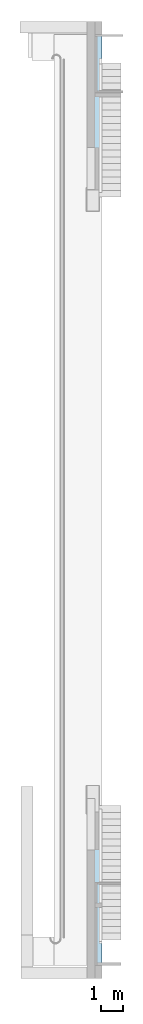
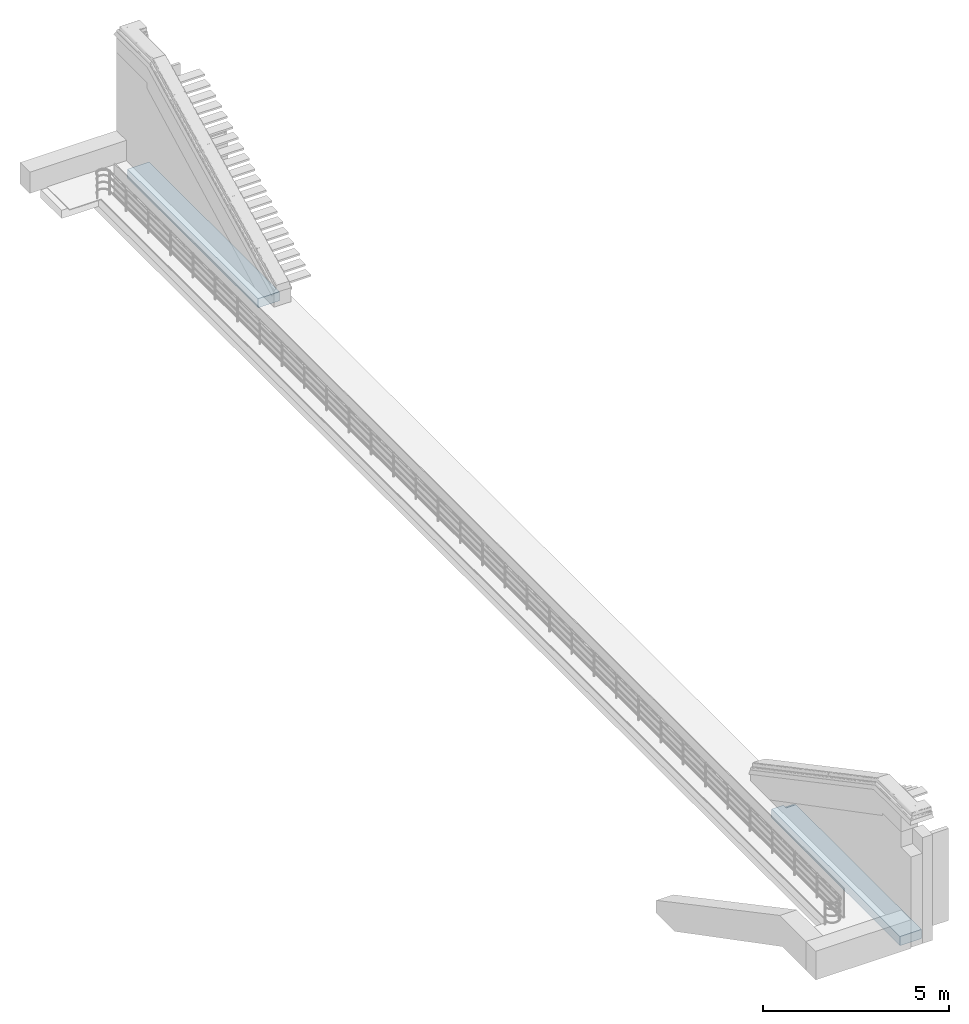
# One storey, part 3 of 5: 1 slab, 4 openings.
"""IFC2X3 building model written with IfcOpenShell, lengths in millimetres."""

from ifc_helpers import new_model, entity, si_unit, converted_unit, derived_unit, direction, frame, origin, origin_2d_with_axis, place, context, subcontext, project, spatial, polyline, rectangle, outline, extrude, faceted_brep, material, layer, layer_set, type_object, element, save


model = new_model("IFC2X3")

# Units and contexts
model_context = context("Model", 3, precision=0.01, world=origin(), true_north=direction((6.123031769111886e-17, 1.0)))
body_context = subcontext(model_context, "Body", "Model", "MODEL_VIEW")
ifc_project = project(units=[si_unit("LENGTHUNIT", "METRE", prefix="MILLI"), si_unit("AREAUNIT", "SQUARE_METRE"), si_unit("VOLUMEUNIT", "CUBIC_METRE"), converted_unit("PLANEANGLEUNIT", "DEGREE", entity("IfcPlaneAngleMeasure", 0.017453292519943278), si_unit("PLANEANGLEUNIT", "RADIAN"), dimensions=[0, 0, 0, 0, 0, 0, 0]), si_unit("MASSUNIT", "GRAM", prefix="KILO"), derived_unit("MASSDENSITYUNIT", [(si_unit("MASSUNIT", "GRAM", prefix="KILO"), 1), (si_unit("LENGTHUNIT", "METRE"), -3)]), derived_unit("IONCONCENTRATIONUNIT", [(si_unit("MASSUNIT", "GRAM", prefix="KILO"), 1), (si_unit("LENGTHUNIT", "METRE"), -3)]), derived_unit("MOMENTOFINERTIAUNIT", [(si_unit("LENGTHUNIT", "METRE"), 4)]), si_unit("TIMEUNIT", "SECOND"), si_unit("FREQUENCYUNIT", "HERTZ"), si_unit("THERMODYNAMICTEMPERATUREUNIT", "DEGREE_CELSIUS"), derived_unit("THERMALTRANSMITTANCEUNIT", [(si_unit("MASSUNIT", "GRAM", prefix="KILO"), 1), (si_unit("THERMODYNAMICTEMPERATUREUNIT", "KELVIN"), -1), (si_unit("TIMEUNIT", "SECOND"), -3)]), derived_unit("THERMALCONDUCTANCEUNIT", [(si_unit("MASSUNIT", "GRAM", prefix="KILO"), 1), (si_unit("THERMODYNAMICTEMPERATUREUNIT", "KELVIN"), -1), (si_unit("TIMEUNIT", "SECOND"), -3), (si_unit("LENGTHUNIT", "METRE"), 1)]), derived_unit("VOLUMETRICFLOWRATEUNIT", [(si_unit("LENGTHUNIT", "METRE", prefix="DECI"), 3), (si_unit("TIMEUNIT", "SECOND"), -1)]), derived_unit("MASSFLOWRATEUNIT", [(si_unit("MASSUNIT", "GRAM", prefix="KILO"), 1), (si_unit("TIMEUNIT", "SECOND"), -1)]), derived_unit("ROTATIONALFREQUENCYUNIT", [(si_unit("TIMEUNIT", "SECOND"), -1)]), si_unit("ELECTRICCURRENTUNIT", "AMPERE"), si_unit("ELECTRICVOLTAGEUNIT", "VOLT"), si_unit("POWERUNIT", "WATT"), si_unit("FORCEUNIT", "NEWTON", prefix="KILO"), si_unit("ILLUMINANCEUNIT", "LUX"), si_unit("LUMINOUSFLUXUNIT", "LUMEN"), si_unit("LUMINOUSINTENSITYUNIT", "CANDELA"), si_unit("ENERGYUNIT", "JOULE"), derived_unit("USERDEFINED", [(si_unit("MASSUNIT", "GRAM", prefix="KILO"), -1), (si_unit("LENGTHUNIT", "METRE"), -2), (si_unit("TIMEUNIT", "SECOND"), 3), (si_unit("LUMINOUSFLUXUNIT", "LUMEN"), 1)]), derived_unit("USERDEFINED", [(si_unit("MASSUNIT", "GRAM", prefix="KILO"), 1), (si_unit("TIMEUNIT", "SECOND"), -3), (si_unit("LENGTHUNIT", "METRE"), 3), (si_unit("ELECTRICCURRENTUNIT", "AMPERE"), -2)]), derived_unit("SOUNDPOWERUNIT", [(si_unit("MASSUNIT", "GRAM", prefix="KILO"), 1), (si_unit("TIMEUNIT", "SECOND"), -3), (si_unit("LENGTHUNIT", "METRE"), 2)]), derived_unit("SOUNDPRESSUREUNIT", [(si_unit("MASSUNIT", "GRAM", prefix="KILO"), 1), (si_unit("LENGTHUNIT", "METRE"), -1), (si_unit("TIMEUNIT", "SECOND"), -2)]), derived_unit("LINEARVELOCITYUNIT", [(si_unit("LENGTHUNIT", "METRE"), 1), (si_unit("TIMEUNIT", "SECOND"), -1)]), si_unit("PRESSUREUNIT", "PASCAL"), derived_unit("USERDEFINED", [(si_unit("MASSUNIT", "GRAM", prefix="KILO"), 1), (si_unit("LENGTHUNIT", "METRE"), -2), (si_unit("TIMEUNIT", "SECOND"), -2)]), derived_unit("LINEARFORCEUNIT", [(si_unit("MASSUNIT", "GRAM", prefix="KILO"), 1), (si_unit("TIMEUNIT", "SECOND"), -2)]), derived_unit("PLANARFORCEUNIT", [(si_unit("MASSUNIT", "GRAM", prefix="KILO"), 1), (si_unit("LENGTHUNIT", "METRE"), -1), (si_unit("TIMEUNIT", "SECOND"), -2)]), derived_unit("SPECIFICHEATCAPACITYUNIT", [(si_unit("THERMODYNAMICTEMPERATUREUNIT", "KELVIN"), -1), (si_unit("LENGTHUNIT", "METRE"), 2), (si_unit("TIMEUNIT", "SECOND"), -2)]), derived_unit("HEATFLUXDENSITYUNIT", [(si_unit("MASSUNIT", "GRAM", prefix="KILO"), 1), (si_unit("TIMEUNIT", "SECOND"), -3)]), derived_unit("HEATINGVALUEUNIT", [(si_unit("LENGTHUNIT", "METRE"), 2), (si_unit("TIMEUNIT", "SECOND"), -2)]), derived_unit("VAPORPERMEABILITYUNIT", [(si_unit("LENGTHUNIT", "METRE"), -1), (si_unit("TIMEUNIT", "SECOND"), 1)]), derived_unit("DYNAMICVISCOSITYUNIT", [(si_unit("MASSUNIT", "GRAM", prefix="KILO"), 1), (si_unit("TIMEUNIT", "SECOND"), -1), (si_unit("LENGTHUNIT", "METRE"), -1)]), derived_unit("THERMALEXPANSIONCOEFFICIENTUNIT", [(si_unit("THERMODYNAMICTEMPERATUREUNIT", "KELVIN"), -1)]), derived_unit("MODULUSOFELASTICITYUNIT", [(si_unit("MASSUNIT", "GRAM", prefix="KILO"), 1), (si_unit("LENGTHUNIT", "METRE"), -1), (si_unit("TIMEUNIT", "SECOND"), -2)]), derived_unit("ISOTHERMALMOISTURECAPACITYUNIT", [(si_unit("MASSUNIT", "GRAM", prefix="KILO"), -1), (si_unit("LENGTHUNIT", "METRE"), 3)]), derived_unit("MOISTUREDIFFUSIVITYUNIT", [(si_unit("TIMEUNIT", "SECOND"), -1), (si_unit("LENGTHUNIT", "METRE"), 2)]), derived_unit("MASSPERLENGTHUNIT", [(si_unit("MASSUNIT", "GRAM", prefix="KILO"), 1), (si_unit("LENGTHUNIT", "METRE"), -1)]), derived_unit("THERMALRESISTANCEUNIT", [(si_unit("MASSUNIT", "GRAM", prefix="KILO"), -1), (si_unit("TIMEUNIT", "SECOND"), 3), (si_unit("THERMODYNAMICTEMPERATUREUNIT", "KELVIN"), 1)]), derived_unit("ACCELERATIONUNIT", [(si_unit("LENGTHUNIT", "METRE"), 1), (si_unit("TIMEUNIT", "SECOND"), -2)]), derived_unit("ANGULARVELOCITYUNIT", [(si_unit("TIMEUNIT", "SECOND"), -1), (si_unit("PLANEANGLEUNIT", "RADIAN"), 1)]), derived_unit("LINEARSTIFFNESSUNIT", [(si_unit("MASSUNIT", "GRAM", prefix="KILO"), 1), (si_unit("TIMEUNIT", "SECOND"), -2)]), derived_unit("WARPINGCONSTANTUNIT", [(si_unit("LENGTHUNIT", "METRE"), 6)]), derived_unit("LINEARMOMENTUNIT", [(si_unit("MASSUNIT", "GRAM", prefix="KILO"), 1), (si_unit("LENGTHUNIT", "METRE"), 1), (si_unit("TIMEUNIT", "SECOND"), -2)]), derived_unit("TORQUEUNIT", [(si_unit("MASSUNIT", "GRAM", prefix="KILO"), 1), (si_unit("LENGTHUNIT", "METRE"), 2), (si_unit("TIMEUNIT", "SECOND"), -2)])], contexts=[model_context])

# Site, building, storey
site_placement = place(None, origin())
site = spatial("IfcSite", under=ifc_project, at=site_placement, Name="Default", CompositionType="ELEMENT")
building_placement = place(site_placement, origin())
building = spatial("IfcBuilding", under=site, at=building_placement, Name="Eesti Rahvusraamatukogu hoone renoveerimise projekteerimistööd", CompositionType="ELEMENT")
storey_placement = place(building_placement, frame((0.0, 0.0, 11550.000000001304)))
storey = spatial("IfcBuildingStorey", under=building, at=storey_placement, Name="4. korrus", CompositionType="ELEMENT", Elevation=11550.000000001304)

# Slab, openings
ifc_material = material(Name="ol. olev materjal")
ifc_layer = layer(ifc_material, 300.0)
ifc_layer_set = layer_set([ifc_layer], Name="Floor:ol. olev - 300mm")
slab_type = type_object("IfcSlabType", Name="Floor:ol. olev - 300mm", PredefinedType="FLOOR", material=ifc_layer_set)
slab_placement = place(storey_placement, origin())
slab = element("IfcSlab", 1, at=slab_placement, inside=storey, type_object=slab_type, material=ifc_material, Name="Floor:ol. olev - 300mm", ObjectType="Floor:ol. olev - 300mm", PredefinedType="FLOOR", context=body_context, shape_type="Brep", body=[
    faceted_brep([(-31609.818431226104, 41157.0, -300.0), (-32280.0, 41157.0, -300.0), (-32280.0, 42108.260869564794, -300.0), (-32280.0, 42671.73913043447, -300.0), (-32280.0, 48190.0, -300.0), (-31609.818431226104, 48190.0, -300.0), (-31609.818431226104, 48190.0, 0.0), (-32280.0, 48190.0, 0.0), (-32280.0, 41157.0, 0.0), (-31920.0, 41157.0, 0.0), (-31609.818431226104, 41157.0, 0.0), (-31609.818431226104, 41308.22398297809, 0.0), (-31609.818431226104, 41157.0, -79.25150865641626)], [[[0, 1, 2, 3, 4, 5]], [[6, 7, 8, 9, 10, 11]], [[7, 6, 5, 4]], [[8, 7, 4, 3, 2, 1]], [[1, 0, 12, 10, 9, 8]], [[0, 5, 6, 11, 10, 12]]]),
    faceted_brep([(-32280.0, 6590.0, -300.0), (-31609.818431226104, 6590.0, -300.0), (-31609.818431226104, 6590.0, 0.0), (-32280.0, 6590.0, 0.0), (-32280.0, 13505.0, -300.0), (-32280.0, 13505.0, 0.0), (-31609.818431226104, 13505.0, -300.0), (-31920.0, 13505.0, 0.0), (-31920.0, 13505.0, -79.86425178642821), (-31609.818431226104, 13505.0, -79.86425178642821), (-31920.0, 13352.953742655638, 0.0), (-31609.818431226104, 13352.953742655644, 0.0)], [[[0, 1, 2, 3]], [[4, 0, 3, 5]], [[6, 4, 5, 7, 8, 9]], [[10, 8, 7]], [[8, 10, 11, 9]], [[1, 6, 9, 11, 2]], [[11, 10, 7, 5, 3, 2]], [[1, 0, 4, 6]]]),
])
opening_1_placement = place(slab_placement, origin())
element("IfcOpeningElement", 2, at=opening_1_placement, cuts=slab, Name="Floor:ol. olev - 300mm", ObjectType="Opening", context=body_context, shape_type="SweptSolid", body=[
    extrude(outline(polyline([(2925.7142857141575, 3391.4285714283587), (3005.7142857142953, 3391.4285714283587), (3005.7142857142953, 4451.428571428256), (-3114.2857142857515, 4451.428571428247), (-3114.285714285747, 3291.428571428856), (-2924.285714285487, 3291.428571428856), (-2924.285714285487, -1163.5714285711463), (95.71428571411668, -1163.5714285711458), (95.71428571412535, -2873.5714285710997), (-2994.2857142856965, -2873.5714285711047), (-2994.2857142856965, -4078.5714285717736), (3005.7142857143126, -4078.571428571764), (3005.7142857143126, -3018.5714285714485), (2925.7142857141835, -3018.5714285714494), (2925.7142857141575, 3391.4285714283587)])), frame((2428.5714285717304, 39384.285714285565, 0.0), z_axis=(0.0, 0.0, -1.0), x_axis=(0.0, 1.0, 0.0)), (0.0, 0.0, 1.0), 300.0),
])
opening_2_placement = place(slab_placement, origin())
element("IfcOpeningElement", 3, at=opening_2_placement, cuts=slab, Name="Floor:ol. olev - 300mm", ObjectType="Opening", context=body_context, shape_type="SweptSolid", body=[
    extrude(outline(polyline([(-999.1593040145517, 1175.9580576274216), (-999.1593040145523, 655.9580576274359), (-3023.47344933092, 655.9580576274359), (-3023.473449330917, 2610.958057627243), (-4223.473449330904, 2610.958057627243), (-4223.473449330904, -2814.04194237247), (-3023.473449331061, -2814.04194237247), (-3023.473449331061, -1410.7483457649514), (3356.526550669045, -1410.7483457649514), (3356.526550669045, -2814.041942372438), (4556.526550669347, -2814.041942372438), (4556.526550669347, 2595.9580576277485), (3356.5265506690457, 2595.9580576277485), (3356.5265506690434, 1175.9580576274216), (-999.1593040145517, 1175.9580576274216)])), frame((2453.473449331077, 21594.041942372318, 0.0)), (0.0, 0.0, -1.0), 300.0),
])
opening_3_placement = place(slab_placement, origin())
element("IfcOpeningElement", 4, at=opening_3_placement, cuts=slab, Name="Floor:ol. olev - 300mm", ObjectType="Opening", context=body_context, shape_type="SweptSolid", body=[
    extrude(rectangle(XDim=5190.000000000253, YDim=5170.000000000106, at=origin_2d_with_axis()), frame((2620.0, 51385.0, 0.0), z_axis=(0.0, 0.0, -1.0), x_axis=(-1.0, 0.0, 0.0)), (0.0, 0.0, 1.0), 300.0),
])
opening_4_placement = place(slab_placement, origin())
element("IfcOpeningElement", 5, at=opening_4_placement, cuts=slab, Name="Floor:ol. olev - 300mm", ObjectType="Opening", context=body_context, shape_type="SweptSolid", body=[
    extrude(outline(polyline([(-799.8333109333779, -298.75427597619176), (-799.8333109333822, -1780.49144804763), (910.1666554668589, -1780.491448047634), (910.1666554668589, 2079.2457240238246), (-110.33334453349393, 2079.2457240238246), (-110.33334453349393, -298.75427597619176), (-799.8333109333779, -298.75427597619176)])), frame((2870.491448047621, 31620.166655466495, 0.0), z_axis=(0.0, 0.0, 1.0), x_axis=(0.0, -1.0, 0.0)), (0.0, 0.0, -1.0), 300.0),
])

save(model, "model.ifc")
